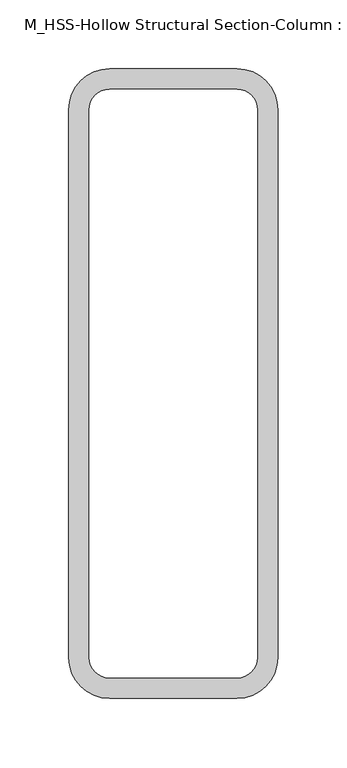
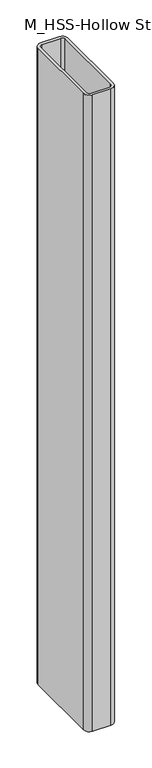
"""IFC4 building model written with IfcOpenShell, lengths in millimetres: column geometry, M_HSS-Hollow Structural Section-Column : HSS457.2X152.4X15.9."""

import ifcopenshell
import ifcopenshell.guid

model = None  # the IFC model being written
_history = None  # IfcOwnerHistory: only IFC2X3 demands one
_inside = {}  # id of a spatial element -> (the spatial element, [elements in it])
_under = {}  # id of a project, library or spatial element -> (it, [spatial elements below it])
_declared = {}  # id of a project -> (the project, [libraries it declares])
_typed = {}  # id of a type object -> (the type object, [elements of that type])
_made_of = {}  # id of a material, layer set ... -> (it, [elements and type objects made of it])


def new_model(schema):
    """Start an empty IFC model of exactly this schema.

    Asked for "IFC4X3", IfcOpenShell would pick the latest addendum, in which some entities
    have other attributes; the version numbers below select the first issue.
    IFC2X3 requires an IfcOwnerHistory on every rooted entity: one is made here for all.
    """
    global model, _history
    if schema == "IFC4X3":
        model = ifcopenshell.file(schema_version=(4, 3, 0, 0))
    else:
        model = ifcopenshell.file(schema=schema)
    _inside.clear()
    _under.clear()
    _declared.clear()
    _typed.clear()
    _made_of.clear()
    _history = None
    if model.schema == "IFC2X3":
        org = make("IfcOrganization", Name="unknown")
        user = make(
            "IfcPersonAndOrganization",
            ThePerson=make("IfcPerson", FamilyName="unknown"),
            TheOrganization=org,
        )
        app = make(
            "IfcApplication",
            ApplicationDeveloper=org,
            Version="unknown",
            ApplicationFullName="unknown",
            ApplicationIdentifier="unknown",
        )
        _history = make(
            "IfcOwnerHistory",
            OwningUser=user,
            OwningApplication=app,
            ChangeAction="ADDED",
            CreationDate=0,
        )
    return model


def make(cls, **values):
    """One entity of the class cls with the attributes given. An attribute that is None is left unset."""
    return model.create_entity(
        cls, **{name: value for name, value in values.items() if value is not None}
    )


def rooted(cls, **values):
    """An entity with a GlobalId (a new one), such as an element, a storey or a relation."""
    return make(cls, GlobalId=ifcopenshell.guid.new(), OwnerHistory=_history, **values)


def si_unit(unit_type, name, prefix=None):
    """IfcSIUnit, for example si_unit("LENGTHUNIT", "METRE", prefix="MILLI")."""
    return make("IfcSIUnit", UnitType=unit_type, Prefix=prefix, Name=name)


def assignment(units):
    """IfcUnitAssignment: the units of a project."""
    return None if units is None else make("IfcUnitAssignment", Units=units)


def point(xyz):
    """IfcCartesianPoint."""
    return None if xyz is None else make("IfcCartesianPoint", Coordinates=xyz)


def direction(xyz):
    """IfcDirection."""
    return None if xyz is None else make("IfcDirection", DirectionRatios=xyz)


def frame(location, z_axis=None, x_axis=None):
    """IfcAxis2Placement3D, a coordinate frame: its origin and axes. An axis left out is left unset."""
    return make(
        "IfcAxis2Placement3D",
        Location=point(location),
        Axis=direction(z_axis),
        RefDirection=direction(x_axis),
    )


def frame_2d(location, x_axis=None):
    """IfcAxis2Placement2D, a coordinate frame in the plane: its origin and x axis."""
    return make(
        "IfcAxis2Placement2D", Location=point(location), RefDirection=direction(x_axis)
    )


def origin():
    """The frame at (0, 0, 0) with its axes left unset."""
    return frame((0.0, 0.0, 0.0))


def origin_with_axes():
    """The frame at (0, 0, 0) with the z axis (0, 0, 1) and the x axis (1, 0, 0) written out."""
    return frame((0.0, 0.0, 0.0), z_axis=(0.0, 0.0, 1.0), x_axis=(1.0, 0.0, 0.0))


def place(relative_to, where):
    """IfcLocalPlacement: puts the frame where relative to a parent placement (None: the world)."""
    return make(
        "IfcLocalPlacement", PlacementRelTo=relative_to, RelativePlacement=where
    )


def context(
    kind, dimensions, precision=None, world=None, true_north=None, identifier=None
):
    """IfcGeometricRepresentationContext, for example the 3D "Model" context."""
    return make(
        "IfcGeometricRepresentationContext",
        ContextIdentifier=identifier,
        ContextType=kind,
        CoordinateSpaceDimension=dimensions,
        Precision=precision,
        WorldCoordinateSystem=world,
        TrueNorth=true_north,
    )


def project(units=None, contexts=None):
    """IfcProject with its units and contexts."""
    return rooted(
        "IfcProject",
        Name="project",
        RepresentationContexts=contexts,
        UnitsInContext=assignment(units),
    )


def spatial(cls, under=None, at=None, **own):
    """A site, building, storey or space (cls), placed at a placement, below another one or the project."""
    s = rooted(cls, ObjectPlacement=at, **own)
    if under is not None:
        _under.setdefault(under.id(), (under, []))[1].append(s)
    return s


def polyline(points):
    """IfcPolyline through the points."""
    return make("IfcPolyline", Points=[point(p) for p in points])


def circle_curve(where, radius):
    """IfcCircle in the frame where."""
    return make("IfcCircle", Position=where, Radius=radius)


def trimmed(basis, trim1, trim2, sense, master):
    """IfcTrimmedCurve: the piece of a basis curve between two trims."""
    return make(
        "IfcTrimmedCurve",
        BasisCurve=basis,
        Trim1=trim1,
        Trim2=trim2,
        SenseAgreement=sense,
        MasterRepresentation=master,
    )


def segment(curve, same_sense, transition):
    """IfcCompositeCurveSegment."""
    return make(
        "IfcCompositeCurveSegment",
        Transition=transition,
        SameSense=same_sense,
        ParentCurve=curve,
    )


def composite_curve(segments, self_intersect=None):
    """IfcCompositeCurve: segments joined end to end."""
    return make("IfcCompositeCurve", Segments=segments, SelfIntersect=self_intersect)


def outline(outer, holes=None, kind="AREA"):
    """IfcArbitraryClosedProfileDef: a profile drawn as a closed curve; with holes, ...WithVoids."""
    if holes is None:
        return make("IfcArbitraryClosedProfileDef", ProfileType=kind, OuterCurve=outer)
    return make(
        "IfcArbitraryProfileDefWithVoids",
        ProfileType=kind,
        OuterCurve=outer,
        InnerCurves=holes,
    )


def extrude(swept, where, along, depth):
    """IfcExtrudedAreaSolid: the profile swept, set in the frame where, extruded along a direction by depth."""
    return make(
        "IfcExtrudedAreaSolid",
        SweptArea=swept,
        Position=where,
        ExtrudedDirection=direction(along),
        Depth=depth,
    )


def shape(context_of_items, identifier, shape_type, items):
    """IfcShapeRepresentation: the items that make up one representation, for example the "Body"."""
    return make(
        "IfcShapeRepresentation",
        ContextOfItems=context_of_items,
        RepresentationIdentifier=identifier,
        RepresentationType=shape_type,
        Items=items,
    )


def source(mapping_origin, context_of_items, identifier, shape_type, items):
    """IfcRepresentationMap: a shape defined once, which mapped items show again and again."""
    return make(
        "IfcRepresentationMap",
        MappingOrigin=mapping_origin,
        MappedRepresentation=shape(context_of_items, identifier, shape_type, items),
    )


def transform(
    local_origin,
    x_axis=None,
    y_axis=None,
    z_axis=None,
    scale=None,
    scale2=None,
    scale3=None,
    uniform=True,
):
    """IfcCartesianTransformationOperator3D, or its non-uniform kind. x_axis, y_axis, z_axis: its Axis1, 2, 3."""
    if uniform:
        return make(
            "IfcCartesianTransformationOperator3D",
            Axis1=direction(x_axis),
            Axis2=direction(y_axis),
            LocalOrigin=point(local_origin),
            Scale=scale,
            Axis3=direction(z_axis),
        )
    return make(
        "IfcCartesianTransformationOperator3DnonUniform",
        Axis1=direction(x_axis),
        Axis2=direction(y_axis),
        LocalOrigin=point(local_origin),
        Scale=scale,
        Axis3=direction(z_axis),
        Scale2=scale2,
        Scale3=scale3,
    )


def mapped(mapping_source, mapping_target):
    """IfcMappedItem: shows the shape of a source again, moved by a transform."""
    return make(
        "IfcMappedItem", MappingSource=mapping_source, MappingTarget=mapping_target
    )


def made_of(thing, what):
    """Note that an element or type object is made of a material, layer set ...; save() writes the relation."""
    if what is not None:
        _made_of.setdefault(what.id(), (what, []))[1].append(thing)
    return thing


def element(
    cls,
    number,
    at=None,
    inside=None,
    cuts=None,
    type_object=None,
    material=None,
    context=None,
    identifier="Body",
    shape_type=None,
    held_by="IfcProductDefinitionShape",
    body=None,
    shapes=None,
    **own,
):
    """One element of the class cls, such as IfcWall. Its Tag is "e" and its number.

    at: its placement. inside: the storey or other place that contains it. cuts: it is an
    opening in that element (IfcRelVoidsElement). A single representation is given by context,
    identifier, shape_type and body (its items); several are given by shapes. held_by: the class
    of the entity that holds the representations. save() writes the other relations.
    """
    e = rooted(cls, Tag="e%d" % number, ObjectPlacement=at, **own)
    if body is not None:
        shapes = [shape(context, identifier, shape_type, body)]
    if shapes is not None:
        e.Representation = make(held_by, Representations=shapes)
    if inside is not None:
        _inside.setdefault(inside.id(), (inside, []))[1].append(e)
    if cuts is not None:
        rooted(
            "IfcRelVoidsElement", RelatingBuildingElement=cuts, RelatedOpeningElement=e
        )
    if type_object is not None:
        _typed.setdefault(type_object.id(), (type_object, []))[1].append(e)
    return made_of(e, material)


def aggregate(whole, parts):
    """IfcRelAggregates: a whole, such as a stair, and the parts it consists of."""
    return rooted("IfcRelAggregates", RelatingObject=whole, RelatedObjects=parts)


def save(model, path):
    """Write the relations noted so far, then the file.

    IfcRelAggregates (storeys below a building ...), IfcRelContainedInSpatialStructure (elements
    in a storey), IfcRelDefinesByType, IfcRelAssociatesMaterial and IfcRelDeclares: one each for
    every whole, place, type object, material and project.
    """
    for whole, parts in _under.values():
        aggregate(whole, parts)
    for where, things in _inside.values():
        rooted(
            "IfcRelContainedInSpatialStructure",
            RelatedElements=things,
            RelatingStructure=where,
        )
    for kind, things in _typed.values():
        rooted("IfcRelDefinesByType", RelatedObjects=things, RelatingType=kind)
    for what, things in _made_of.values():
        rooted("IfcRelAssociatesMaterial", RelatedObjects=things, RelatingMaterial=what)
    for by, libraries in _declared.values():
        rooted("IfcRelDeclares", RelatingContext=by, RelatedDefinitions=libraries)
    model.write(path)


def m_hss_hollow_structural_section_column_hss457_2x152_4x15_9_3403eda1(model_context):
    return source(origin(), model_context, "Body", "SweptSolid", [
        extrude(outline(composite_curve([segment(trimmed(circle_curve(frame_2d((46.4, 198.9)), 29.6), [point((46.4, 228.5))], [point((76.0, 198.9))], False, "CARTESIAN"), True, "CONTINUOUS"), segment(polyline([(76.0, 198.9), (76.0, -198.9)]), True, "CONTINUOUS"), segment(trimmed(circle_curve(frame_2d((46.4, -198.9)), 29.6), [point((76.0, -198.9))], [point((46.4, -228.5))], False, "CARTESIAN"), True, "CONTINUOUS"), segment(polyline([(46.4, -228.5), (-46.4, -228.5)]), True, "CONTINUOUS"), segment(trimmed(circle_curve(frame_2d((-46.4, -198.9)), 29.6), [point((-46.4, -228.5))], [point((-76.0, -198.9))], False, "CARTESIAN"), True, "CONTINUOUS"), segment(polyline([(-76.0, -198.9), (-76.0, 198.9)]), True, "CONTINUOUS"), segment(trimmed(circle_curve(frame_2d((-46.4, 198.9)), 29.6), [point((-76.0, 198.9))], [point((-46.4, 228.5))], False, "CARTESIAN"), True, "CONTINUOUS"), segment(polyline([(-46.4, 228.5), (46.4, 228.5)]), True, "CONTINUOUS")], self_intersect=False), holes=[composite_curve([segment(polyline([(46.4, 213.7), (-46.4, 213.7)]), True, "CONTINUOUS"), segment(trimmed(circle_curve(frame_2d((-46.4, 198.9)), 14.8), [point((-46.4, 213.7))], [point((-61.2, 198.9))], True, "CARTESIAN"), True, "CONTINUOUS"), segment(polyline([(-61.2, 198.9), (-61.2, -198.9)]), True, "CONTINUOUS"), segment(trimmed(circle_curve(frame_2d((-46.4, -198.9)), 14.8), [point((-61.2, -198.9))], [point((-46.4, -213.7))], True, "CARTESIAN"), True, "CONTINUOUS"), segment(polyline([(-46.4, -213.7), (46.4, -213.7)]), True, "CONTINUOUS"), segment(trimmed(circle_curve(frame_2d((46.4, -198.9)), 14.8), [point((46.4, -213.7))], [point((61.2, -198.9))], True, "CARTESIAN"), True, "CONTINUOUS"), segment(polyline([(61.2, -198.9), (61.2, 198.9)]), True, "CONTINUOUS"), segment(trimmed(circle_curve(frame_2d((46.4, 198.9)), 14.8), [point((61.2, 198.9))], [point((46.4, 213.7))], True, "CARTESIAN"), True, "CONTINUOUS")], self_intersect=False)]), origin_with_axes(), (0.0, 0.0, 1.0), 3400.0),
    ])


if __name__ == "__main__":
    model = new_model("IFC4")
    model_context = context("Model", 3, world=origin())
    ifc_project = project(units=[si_unit("LENGTHUNIT", "METRE", prefix="MILLI")], contexts=[model_context])
    site = spatial("IfcSite", under=ifc_project)
    building = spatial("IfcBuilding", under=site)
    placement = place(None, origin())
    m_hss_hollow_structural_section_column_hss457_2x152_4x15_9_shape = m_hss_hollow_structural_section_column_hss457_2x152_4x15_9_3403eda1(model_context)
    element("IfcColumn", 1, ObjectType="M_HSS-Hollow Structural Section-Column : HSS457.2X152.4X15.9", at=placement, inside=building, context=model_context, shape_type="MappedRepresentation", body=[
        mapped(m_hss_hollow_structural_section_column_hss457_2x152_4x15_9_shape, transform((0.0, 0.0, 0.0), x_axis=(1.0, 0.0, 0.0), y_axis=(0.0, 1.0, 0.0), z_axis=(0.0, 0.0, 1.0))),
    ])
    save(model, "model.ifc")
